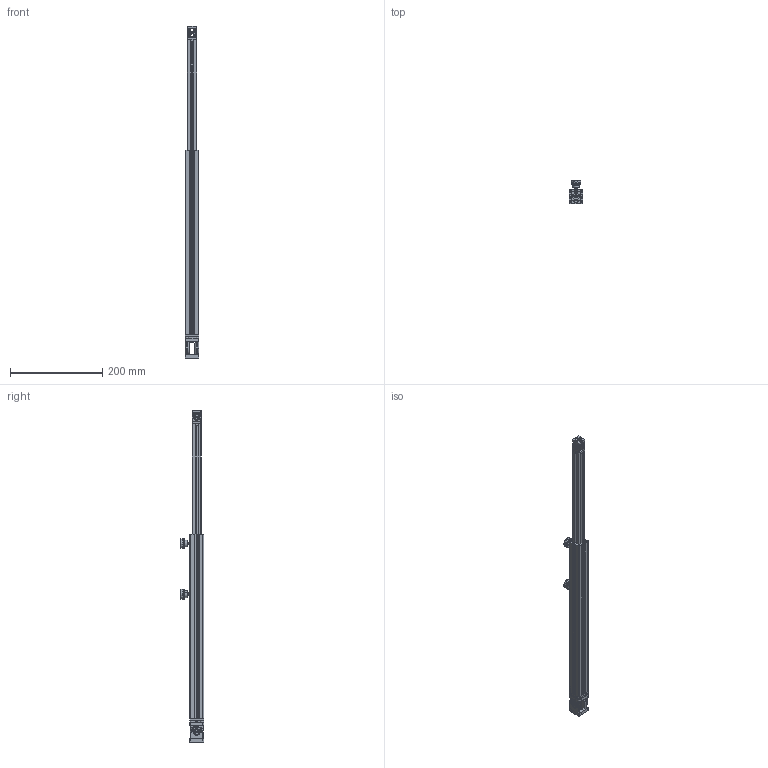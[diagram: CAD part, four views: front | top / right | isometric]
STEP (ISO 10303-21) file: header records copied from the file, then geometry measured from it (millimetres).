
FILE_DESCRIPTION (( 'STEP AP214' ), '1' );
FILE_NAME ('TSB-2030-445(+240).STEP', '2023-12-07T09:39:56', ( '' ), ( '' ), 'SwSTEP 2.0', 'SolidWorks 2022', '' );
FILE_SCHEMA (( 'AUTOMOTIVE_DESIGN' ));
Length unit declared in the file: millimetre
Products named in the file (23): TS-3030-2020 Профиль телескопический 30х30 (Анодированный)_L=400 мм; 5079; 2115-2; 2113-3; 2115-1; Шайба 6 ГОСТ 11371-78; 2113-1; 2115-3; Пластина для телескопического профиля2_Без отверстий; 2113_Зафиксирован; D21M6H15; TSB-2030-445(+240); Винт-пот.-шестигр.-ГОСТ-Р-ИСО-10642-2012-DIN-7991_М5x8; 2115_Зафиксирован; Винт с внутренним шестигранником ISO 4762_М4х20; D21M6H15 Part 1; 2113-2; Гайка M6-6H ГОСТ 5915-70_С резьбой; OB-2020 Профиль 20х20 мм, паз 6 мм (Анодированный)_L=390 мм; TS-3030-Connector; D21M6H15 Part 2; Пластина для телескопического профиля1; Винт полусфера ISO 7380 (для рендеров)_М6х20
Assembly tree (39 placements, depth 3):
  TSB-2030-445(+240)
    TS-3030-2020 Профиль телескопический 30х30 (Анодированный)_L=400 мм
    OB-2020 Профиль 20х20 мм, паз 6 мм (Анодированный)_L=390 мм
    2113_Зафиксирован
      2113-1  x2
      2113-2  x2
      Винт-пот.-шестигр.-ГОСТ-Р-ИСО-10642-2012-DIN-7991_М5x8  x2
    TS-3030-Connector
      Пластина для телескопического профиля1
      Пластина для телескопического профиля2_Без отверстий
      Гайка M6-6H ГОСТ 5915-70_С резьбой
    Винт полусфера ISO 7380 (для рендеров)_М6х20  x2
    Винт с внутренним шестигранником ISO 4762_М4х20  x4
    5079  x2
    D21M6H15  x2
      D21M6H15 Part 1
      D21M6H15 Part 2
    2113-3  x4
    2115_Зафиксирован
      2115-1  x2
      2115-2  x2
      Винт-пот.-шестигр.-ГОСТ-Р-ИСО-10642-2012-DIN-7991_М5x8  x2
      2115-3  x2
    Шайба 6 ГОСТ 11371-78
Bounding box: 30 x 50.4 x 721.2 mm (x, y, z)
Volume: 276221.8 mm3; surface area: 215235.3 mm2
Topology: 88 solids, 88 shells, 2666 faces, 6908 edges, 4494 vertices
Faces by surface type: plane 1162, cylinder 1016, bspline 258, cone 118, torus 108, sphere 4
Entity records: 78296 total; most frequent: CARTESIAN_POINT 40692, ORIENTED_EDGE 7276, DIRECTION 6299, EDGE_CURVE 3638, VERTEX_POINT 2383, AXIS2_PLACEMENT_3D 2125, VECTOR 2049, LINE 2049
